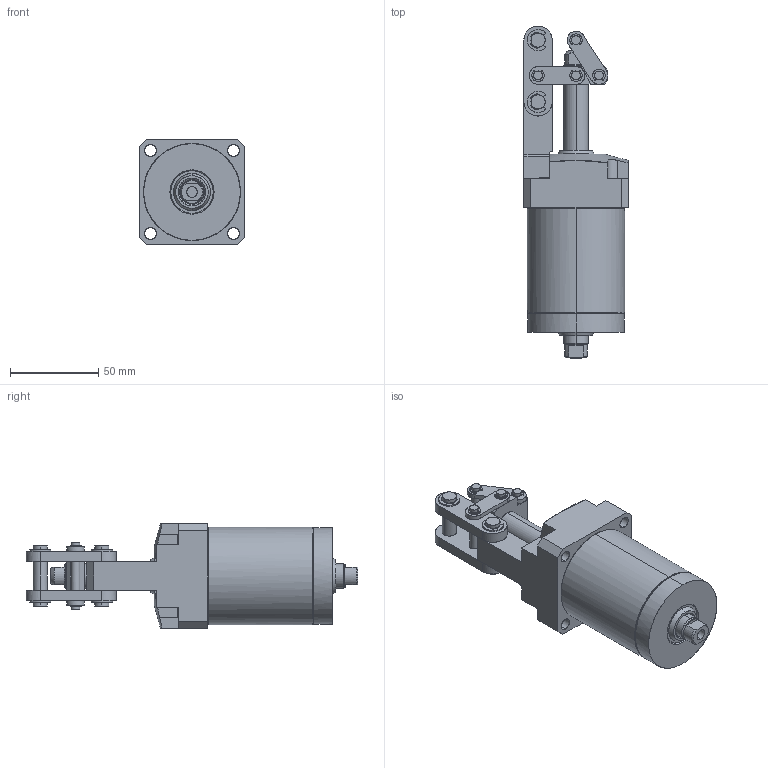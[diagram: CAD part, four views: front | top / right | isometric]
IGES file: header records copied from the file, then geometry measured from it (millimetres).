
Start section: Comment
Global section: file name: JLF5H34-38KD.igs; native system:  By Spatial Corp.; preprocessor: XPlus GENERIC/IGES 3.0; author: Author; organization: Title; date: 20080526.114017; units: millimetre
Bounding box: 59 x 187.99 x 59 mm (x, y, z)
Surface area: 64345.5 mm2 (no closed solid volume)
Topology: 0 solids, 0 shells, 571 faces, 2998 edges, 2992 vertices
Faces by surface type: bspline 571
